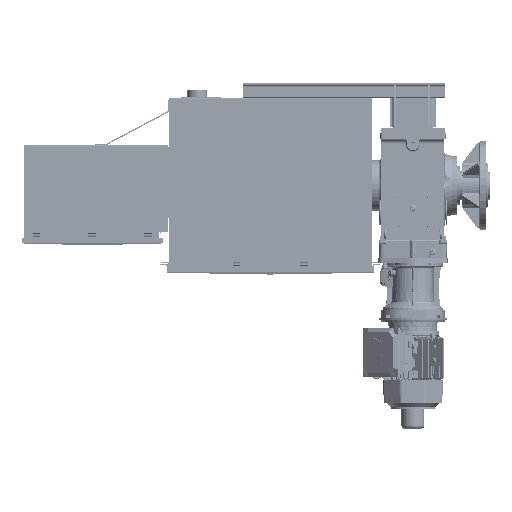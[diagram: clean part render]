
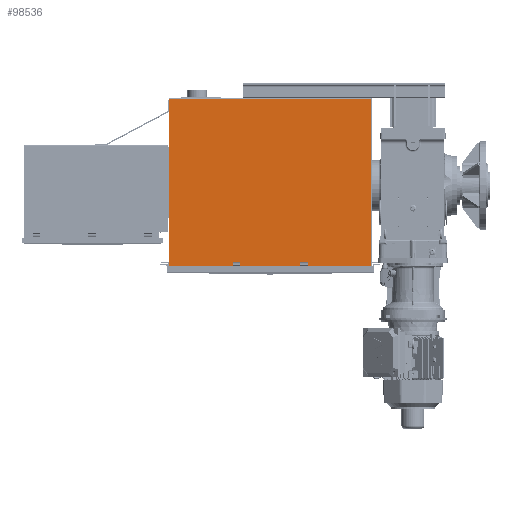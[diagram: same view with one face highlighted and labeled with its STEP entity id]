
A CAD part, top view. The second image highlights one B-rep face of the part: STEP entity #98536.
In plain terms, the highlighted planar face has unit normal (0, 0, 1).
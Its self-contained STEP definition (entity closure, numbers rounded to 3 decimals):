
#5711=PLANE('',#106530);
#8876=LINE('',#146941,#16064);
#8893=LINE('',#146986,#16081);
#8895=LINE('',#146990,#16083);
#8896=LINE('',#146992,#16084);
#8897=LINE('',#147001,#16085);
#8914=LINE('',#147046,#16102);
#8916=LINE('',#147050,#16104);
#8917=LINE('',#147052,#16105);
#11915=LINE('',#174039,#19103);
#11918=LINE('',#174045,#19106);
#11921=LINE('',#174052,#19109);
#11924=LINE('',#174056,#19112);
#11930=LINE('',#174068,#19118);
#11932=LINE('',#174072,#19120);
#11934=LINE('',#174075,#19122);
#11935=LINE('',#174078,#19123);
#11936=LINE('',#174080,#19124);
#11937=LINE('',#174081,#19125);
#11938=LINE('',#174083,#19126);
#11939=LINE('',#174084,#19127);
#16064=VECTOR('',#116522,40.);
#16081=VECTOR('',#116565,40.);
#16083=VECTOR('',#116569,40.);
#16084=VECTOR('',#116572,40.);
#16085=VECTOR('',#116581,40.);
#16102=VECTOR('',#116624,40.);
#16104=VECTOR('',#116628,40.);
#16105=VECTOR('',#116631,40.);
#19103=VECTOR('',#127703,945.);
#19106=VECTOR('',#127708,0.992);
#19109=VECTOR('',#127713,2.976);
#19112=VECTOR('',#127718,1.984);
#19118=VECTOR('',#127728,2.976);
#19120=VECTOR('',#127732,0.992);
#19122=VECTOR('',#127736,1.984);
#19123=VECTOR('',#127739,51.016);
#19124=VECTOR('',#127740,894.016);
#19125=VECTOR('',#127741,1051.);
#19126=VECTOR('',#127742,894.016);
#19127=VECTOR('',#127743,51.016);
#21776=FACE_BOUND('',#32847,.T.);
#21777=FACE_BOUND('',#32848,.T.);
#26341=FACE_OUTER_BOUND('',#32846,.T.);
#32846=EDGE_LOOP('',(#81245,#81246,#81247,#81248,#81249,#81250,#81251,#81252,
#81253,#81254,#81255,#81256));
#32847=EDGE_LOOP('',(#81257,#81258,#81259,#81260));
#32848=EDGE_LOOP('',(#81261,#81262,#81263,#81264));
#41109=VERTEX_POINT('',#146939);
#41110=VERTEX_POINT('',#146940);
#41125=VERTEX_POINT('',#146984);
#41126=VERTEX_POINT('',#146988);
#41129=VERTEX_POINT('',#146999);
#41130=VERTEX_POINT('',#147000);
#41145=VERTEX_POINT('',#147044);
#41146=VERTEX_POINT('',#147048);
#45172=VERTEX_POINT('',#173723);
#45272=VERTEX_POINT('',#174031);
#45273=VERTEX_POINT('',#174035);
#45275=VERTEX_POINT('',#174043);
#45277=VERTEX_POINT('',#174049);
#45278=VERTEX_POINT('',#174051);
#45281=VERTEX_POINT('',#174065);
#45282=VERTEX_POINT('',#174067);
#45283=VERTEX_POINT('',#174071);
#45284=VERTEX_POINT('',#174077);
#45285=VERTEX_POINT('',#174079);
#45286=VERTEX_POINT('',#174082);
#51427=EDGE_CURVE('',#41109,#41110,#8876,.T.);
#51450=EDGE_CURVE('',#41110,#41125,#8893,.T.);
#51452=EDGE_CURVE('',#41126,#41109,#8895,.T.);
#51453=EDGE_CURVE('',#41125,#41126,#8896,.T.);
#51456=EDGE_CURVE('',#41129,#41130,#8897,.T.);
#51479=EDGE_CURVE('',#41130,#41145,#8914,.T.);
#51481=EDGE_CURVE('',#41146,#41129,#8916,.T.);
#51482=EDGE_CURVE('',#41145,#41146,#8917,.T.);
#57627=EDGE_CURVE('',#45272,#45273,#11915,.T.);
#57630=EDGE_CURVE('',#45273,#45275,#11918,.T.);
#57633=EDGE_CURVE('',#45278,#45277,#11921,.T.);
#57636=EDGE_CURVE('',#45275,#45278,#11924,.T.);
#57642=EDGE_CURVE('',#45282,#45281,#11930,.T.);
#57644=EDGE_CURVE('',#45283,#45272,#11932,.T.);
#57646=EDGE_CURVE('',#45281,#45283,#11934,.T.);
#57647=EDGE_CURVE('',#45284,#45277,#11935,.T.);
#57648=EDGE_CURVE('',#45285,#45284,#11936,.T.);
#57649=EDGE_CURVE('',#45285,#45172,#11937,.T.);
#57650=EDGE_CURVE('',#45286,#45172,#11938,.T.);
#57651=EDGE_CURVE('',#45282,#45286,#11939,.T.);
#81245=ORIENTED_EDGE('',*,*,#57633,.T.);
#81246=ORIENTED_EDGE('',*,*,#57647,.F.);
#81247=ORIENTED_EDGE('',*,*,#57648,.F.);
#81248=ORIENTED_EDGE('',*,*,#57649,.T.);
#81249=ORIENTED_EDGE('',*,*,#57650,.F.);
#81250=ORIENTED_EDGE('',*,*,#57651,.F.);
#81251=ORIENTED_EDGE('',*,*,#57642,.T.);
#81252=ORIENTED_EDGE('',*,*,#57646,.T.);
#81253=ORIENTED_EDGE('',*,*,#57644,.T.);
#81254=ORIENTED_EDGE('',*,*,#57627,.T.);
#81255=ORIENTED_EDGE('',*,*,#57630,.T.);
#81256=ORIENTED_EDGE('',*,*,#57636,.T.);
#81257=ORIENTED_EDGE('',*,*,#51427,.T.);
#81258=ORIENTED_EDGE('',*,*,#51450,.T.);
#81259=ORIENTED_EDGE('',*,*,#51453,.T.);
#81260=ORIENTED_EDGE('',*,*,#51452,.T.);
#81261=ORIENTED_EDGE('',*,*,#51456,.T.);
#81262=ORIENTED_EDGE('',*,*,#51479,.T.);
#81263=ORIENTED_EDGE('',*,*,#51482,.T.);
#81264=ORIENTED_EDGE('',*,*,#51481,.T.);
#98536=ADVANCED_FACE('',(#26341,#21776,#21777),#5711,.F.);
#106530=AXIS2_PLACEMENT_3D('',#174076,#127737,#127738);
#116522=DIRECTION('',(0.,1.,0.));
#116565=DIRECTION('',(1.,0.,0.));
#116569=DIRECTION('',(-1.,0.,0.));
#116572=DIRECTION('',(0.,-1.,0.));
#116581=DIRECTION('',(0.,1.,0.));
#116624=DIRECTION('',(1.,0.,0.));
#116628=DIRECTION('',(-1.,0.,0.));
#116631=DIRECTION('',(0.,-1.,0.));
#127703=DIRECTION('',(1.,0.,0.));
#127708=DIRECTION('',(0.,1.,0.));
#127713=DIRECTION('',(0.,-1.,0.));
#127718=DIRECTION('',(1.,0.,0.));
#127728=DIRECTION('',(0.,1.,0.));
#127732=DIRECTION('',(0.,-1.,0.));
#127736=DIRECTION('',(1.,0.,0.));
#127737=DIRECTION('center_axis',(0.,0.,
-1.));
#127738=DIRECTION('ref_axis',(1.,0.,0.));
#127739=DIRECTION('',(-1.,0.,0.));
#127740=DIRECTION('',(0.,-1.,0.));
#127741=DIRECTION('',(-1.,0.,0.));
#127742=DIRECTION('',(0.,1.,0.));
#127743=DIRECTION('',(-1.,0.,0.));
#146939=CARTESIAN_POINT('',(-1065.982,-646.817,872.238));
#146940=CARTESIAN_POINT('',(-1065.982,-606.817,872.238));
#146941=CARTESIAN_POINT('',(-1065.982,-409.737,872.238));
#146984=CARTESIAN_POINT('',(-1025.982,-606.817,872.238));
#146986=CARTESIAN_POINT('',(-958.482,-606.817,872.238));
#146988=CARTESIAN_POINT('',(-1025.982,-646.817,872.238));
#146990=CARTESIAN_POINT('',(-958.482,-646.817,872.238));
#146992=CARTESIAN_POINT('',(-1025.982,-409.737,872.238));
#146999=CARTESIAN_POINT('',(-715.982,-646.817,872.238));
#147000=CARTESIAN_POINT('',(-715.982,-606.817,872.238));
#147001=CARTESIAN_POINT('',(-715.982,-409.737,872.238));
#147044=CARTESIAN_POINT('',(-675.982,-606.817,872.238));
#147046=CARTESIAN_POINT('',(-783.482,-606.817,872.238));
#147048=CARTESIAN_POINT('',(-675.982,-646.817,872.238));
#147050=CARTESIAN_POINT('',(-783.482,-646.817,872.238));
#147052=CARTESIAN_POINT('',(-675.982,-409.737,872.238));
#173723=CARTESIAN_POINT('',(-1396.482,241.483,872.238));
#174031=CARTESIAN_POINT('',(-1343.482,-650.55,872.238));
#174035=CARTESIAN_POINT('',(-398.482,-650.55,872.238));
#174039=CARTESIAN_POINT('',(-634.732,-650.55,872.238));
#174043=CARTESIAN_POINT('',(-398.482,-649.558,872.238));
#174045=CARTESIAN_POINT('',(-398.482,-425.17,872.238));
#174049=CARTESIAN_POINT('',(-396.499,-652.534,872.238));
#174051=CARTESIAN_POINT('',(-396.499,-649.558,872.238));
#174052=CARTESIAN_POINT('',(-396.499,-426.658,872.238));
#174056=CARTESIAN_POINT('',(-633.74,-649.558,872.238));
#174065=CARTESIAN_POINT('',(-1345.466,-649.558,872.238));
#174067=CARTESIAN_POINT('',(-1345.466,-652.534,872.238));
#174068=CARTESIAN_POINT('',(-1345.466,-425.17,872.238));
#174071=CARTESIAN_POINT('',(-1343.482,-649.558,872.238));
#174072=CARTESIAN_POINT('',(-1343.482,-426.658,872.238));
#174075=CARTESIAN_POINT('',(-1107.232,-649.558,872.238));
#174076=CARTESIAN_POINT('Origin',(-870.982,-200.782,872.238));
#174077=CARTESIAN_POINT('',(-345.482,-652.534,872.238));
#174078=CARTESIAN_POINT('',(-345.482,-652.534,872.238));
#174079=CARTESIAN_POINT('',(-345.482,241.483,872.238));
#174080=CARTESIAN_POINT('',(-345.482,241.483,872.238));
#174081=CARTESIAN_POINT('',(-870.982,241.483,872.238));
#174082=CARTESIAN_POINT('',(-1396.482,-652.534,872.238));
#174083=CARTESIAN_POINT('',(-1396.482,250.457,872.238));
#174084=CARTESIAN_POINT('',(-345.482,-652.534,872.238));
